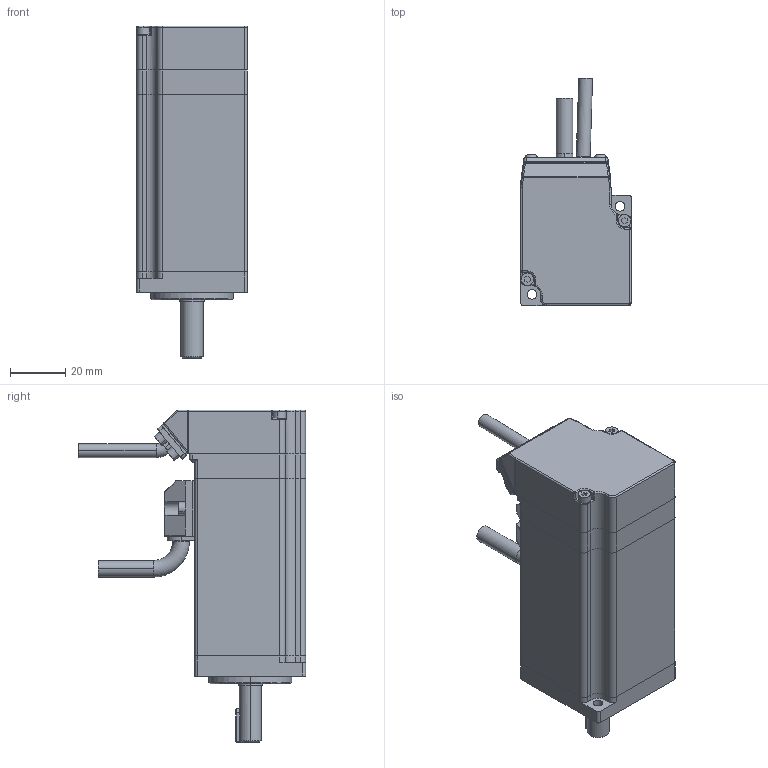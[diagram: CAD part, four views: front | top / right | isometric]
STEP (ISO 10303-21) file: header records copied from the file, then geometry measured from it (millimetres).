
FILE_DESCRIPTION (( 'STEP AP203' ), '1' );
FILE_NAME ('萇儂軞蚾-L40-NL(A1+S1).STEP', '2021-10-26T07:33:04', ( '' ), ( '' ), 'SwSTEP 2.0', 'SolidWorks 2018', '' );
FILE_SCHEMA (( 'CONFIG_CONTROL_DESIGN' ));
Length unit declared in the file: millimetre
Products named in the file (1): 萇儂軞蚾-L40-NL(A1+S1)
Bounding box: 40 x 82.11 x 120 mm (x, y, z)
Volume: 74538 mm3; surface area: 52884.9 mm2
Topology: 23 solids, 23 shells, 894 faces, 2182 edges, 1371 vertices
Faces by surface type: cylinder 401, plane 329, cone 128, torus 21, sphere 13, bspline 2
Entity records: 26684 total; most frequent: DIRECTION 4849, CARTESIAN_POINT 4844, ORIENTED_EDGE 4332, EDGE_CURVE 2166, AXIS2_PLACEMENT_3D 1850, VERTEX_POINT 1369, VECTOR 1149, LINE 1149
